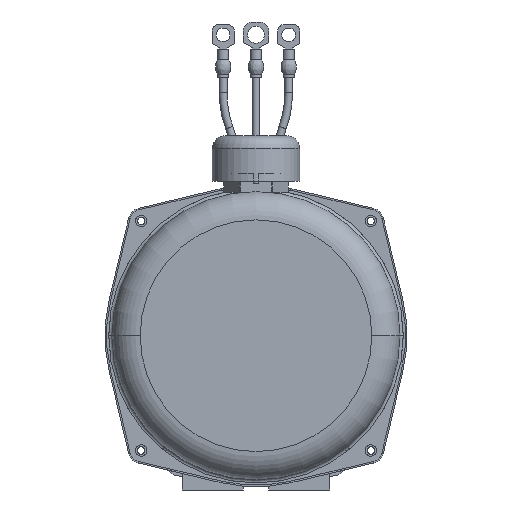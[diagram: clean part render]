
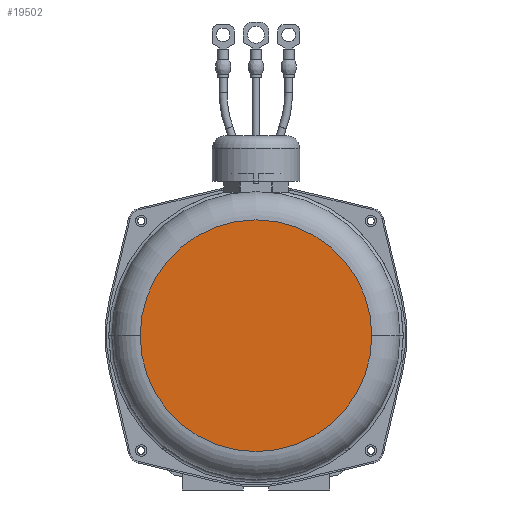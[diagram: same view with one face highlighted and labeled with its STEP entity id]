
A CAD part, front view. The second image highlights one B-rep face of the part: STEP entity #19502.
In plain terms, the highlighted planar face has unit normal (0, -1, 0).
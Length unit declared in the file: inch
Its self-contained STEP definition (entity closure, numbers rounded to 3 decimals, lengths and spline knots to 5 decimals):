
#3090=CARTESIAN_POINT('',(0.,-7.846,0.97999));
#3091=DIRECTION('',(0.,-1.,0.));
#3092=DIRECTION('',(-1.,0.,0.));
#3093=AXIS2_PLACEMENT_3D('',#3090,#3091,#3092);
#3095=CARTESIAN_POINT('',(0.,-7.846,0.97999));
#3096=DIRECTION('',(0.,-1.,0.));
#3097=DIRECTION('',(1.,0.,0.));
#3098=AXIS2_PLACEMENT_3D('',#3095,#3096,#3097);
#13266=CARTESIAN_POINT('',(2.2525,-7.846,0.97999));
#13267=VERTEX_POINT('',#13266);
#13268=CARTESIAN_POINT('',(-2.2525,-7.846,0.97999));
#13269=VERTEX_POINT('',#13268);
#19493=CARTESIAN_POINT('',(0.,-7.846,0.97999));
#19494=DIRECTION('',(0.,1.,0.));
#19495=DIRECTION('',(-1.,0.,0.));
#19496=AXIS2_PLACEMENT_3D('',#19493,#19494,#19495);
#19497=PLANE('',#19496);
#19498=ORIENTED_EDGE('',*,*,#19488,.F.);
#19499=ORIENTED_EDGE('',*,*,#19472,.F.);
#19500=EDGE_LOOP('',(#19498,#19499));
#19501=FACE_OUTER_BOUND('',#19500,.F.);
#19502=ADVANCED_FACE('',(#19501),#19497,.F.);
#3094=CIRCLE('',#3093,2.2525);
#3099=CIRCLE('',#3098,2.2525);
#19472=EDGE_CURVE('',#13267,#13269,#3099,.T.);
#19488=EDGE_CURVE('',#13269,#13267,#3094,.T.);
